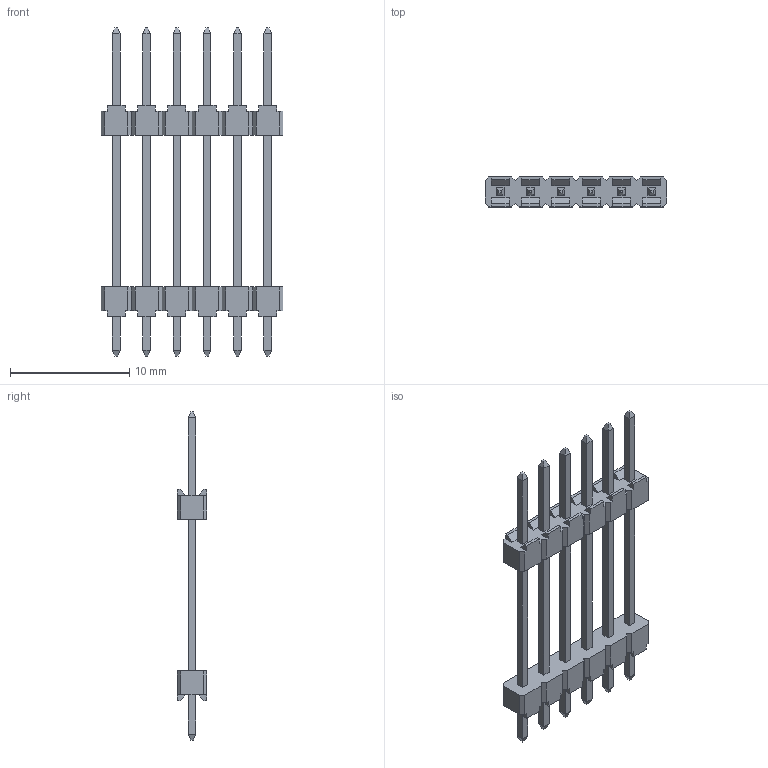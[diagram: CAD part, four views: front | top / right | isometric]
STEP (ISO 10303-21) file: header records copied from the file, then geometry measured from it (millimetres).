
FILE_DESCRIPTION(/* description */ (''),/* implementation_level */ '2;1');
FILE_NAME(/* name */ '961406-9040804-XX',/* time_stamp */ '2007-06-14T17:29:53+02:00',/* author */ (''),/* organization */ (''),/* preprocessor_version */ 'ST-DEVELOPER v9',/* originating_system */ 'UGS - NX 3.0',/* authorisation */ '');
FILE_SCHEMA (('AUTOMOTIVE_DESIGN { 1 0 10303 214 1 1 1 1 }'));
Length unit declared in the file: millimetre
Products named in the file (1): 961406-9040804-XX
Bounding box: 15.24 x 2.5 x 27.5 mm (x, y, z)
Volume: 212.6 mm3; surface area: 679.4 mm2
Topology: 1 solids, 1 shells, 336 faces, 912 edges, 592 vertices
Faces by surface type: plane 336
Entity records: 10336 total; most frequent: CARTESIAN_POINT 1841, ORIENTED_EDGE 1824, DIRECTION 1586, EDGE_CURVE 912, LINE 912, VECTOR 912, VERTEX_POINT 592, EDGE_LOOP 360
